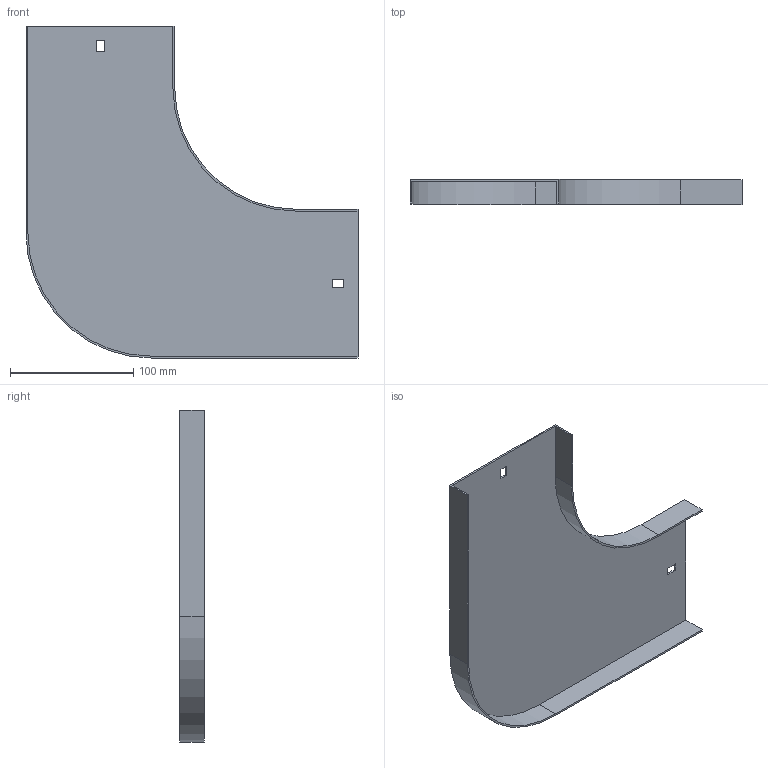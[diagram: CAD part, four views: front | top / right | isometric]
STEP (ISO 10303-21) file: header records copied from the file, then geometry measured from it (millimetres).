
FILE_DESCRIPTION (( 'STEP AP214' ), '1' );
FILE_NAME ('10N1R117.step', '2025-02-21T09:21:39', ( '' ), ( '' ), 'SwSTEP 2.0', 'SolidWorks 2023', '' );
FILE_SCHEMA (( 'AUTOMOTIVE_DESIGN' ));
Length unit declared in the file: millimetre
Products named in the file (1): 10N1R117
Bounding box: 269 x 20 x 269 mm (x, y, z)
Volume: 95883.7 mm3; surface area: 129534.1 mm2
Topology: 1 solids, 1 shells, 26 faces, 72 edges, 48 vertices
Faces by surface type: plane 22, cylinder 4
Entity records: 855 total; most frequent: CARTESIAN_POINT 147, ORIENTED_EDGE 144, DIRECTION 134, EDGE_CURVE 72, LINE 64, VECTOR 64, VERTEX_POINT 48, AXIS2_PLACEMENT_3D 35
